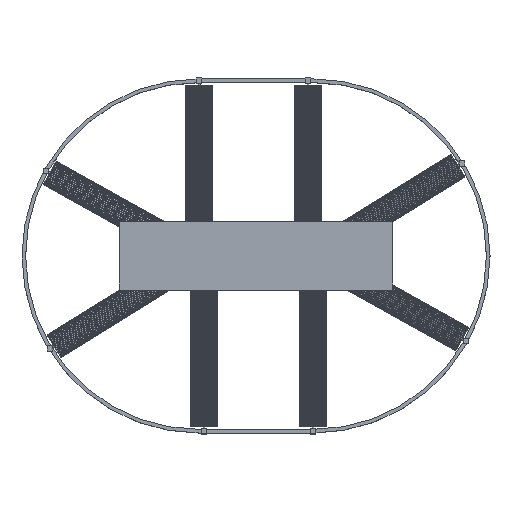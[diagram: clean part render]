
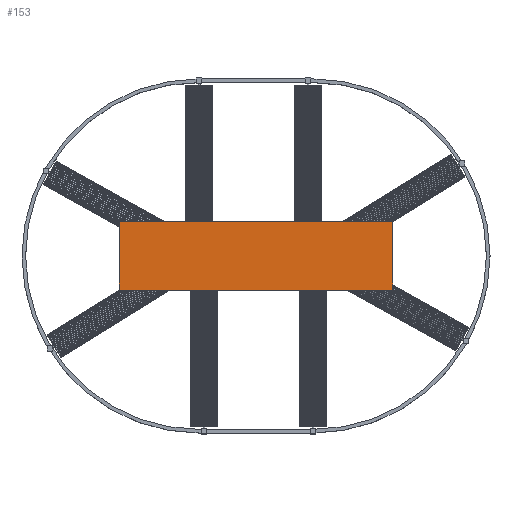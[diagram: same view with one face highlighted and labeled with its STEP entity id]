
A CAD part, top view. The second image highlights one B-rep face of the part: STEP entity #153.
In plain terms, the highlighted planar face has unit normal (0, 0, 1).
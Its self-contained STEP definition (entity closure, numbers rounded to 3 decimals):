
#24 = VERTEX_POINT('',#25);
#25 = CARTESIAN_POINT('',(-600.,-150.,290.));
#40 = VERTEX_POINT('',#41);
#41 = CARTESIAN_POINT('',(-600.,150.,290.));
#47 = EDGE_CURVE('',#24,#40,#48,.T.);
#48 = LINE('',#49,#50);
#49 = CARTESIAN_POINT('',(-600.,-150.,290.));
#50 = VECTOR('',#51,1.);
#51 = DIRECTION('',(0.,1.,0.));
#64 = VERTEX_POINT('',#65);
#65 = CARTESIAN_POINT('',(600.,-150.,290.));
#80 = VERTEX_POINT('',#81);
#81 = CARTESIAN_POINT('',(600.,150.,290.));
#87 = EDGE_CURVE('',#64,#80,#88,.T.);
#88 = LINE('',#89,#90);
#89 = CARTESIAN_POINT('',(600.,-150.,290.));
#90 = VECTOR('',#91,1.);
#91 = DIRECTION('',(0.,1.,0.));
#108 = EDGE_CURVE('',#24,#64,#109,.T.);
#109 = LINE('',#110,#111);
#110 = CARTESIAN_POINT('',(-600.,-150.,290.));
#111 = VECTOR('',#112,1.);
#112 = DIRECTION('',(1.,0.,0.));
#130 = EDGE_CURVE('',#40,#80,#131,.T.);
#131 = LINE('',#132,#133);
#132 = CARTESIAN_POINT('',(-600.,150.,290.));
#133 = VECTOR('',#134,1.);
#134 = DIRECTION('',(1.,0.,0.));
#153 = ADVANCED_FACE('',(#154),#160,.T.);
#154 = FACE_BOUND('',#155,.T.);
#155 = EDGE_LOOP('',(#156,#157,#158,#159));
#156 = ORIENTED_EDGE('',*,*,#47,.F.);
#157 = ORIENTED_EDGE('',*,*,#108,.T.);
#158 = ORIENTED_EDGE('',*,*,#87,.T.);
#159 = ORIENTED_EDGE('',*,*,#130,.F.);
#160 = PLANE('',#161);
#161 = AXIS2_PLACEMENT_3D('',#162,#163,#164);
#162 = CARTESIAN_POINT('',(-600.,-150.,290.));
#163 = DIRECTION('',(0.,0.,1.));
#164 = DIRECTION('',(1.,0.,0.));
